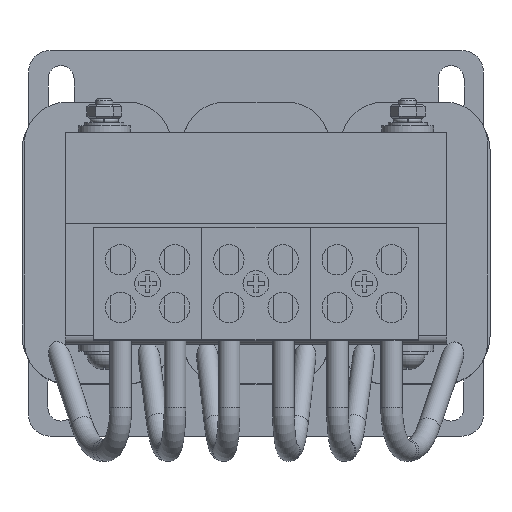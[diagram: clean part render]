
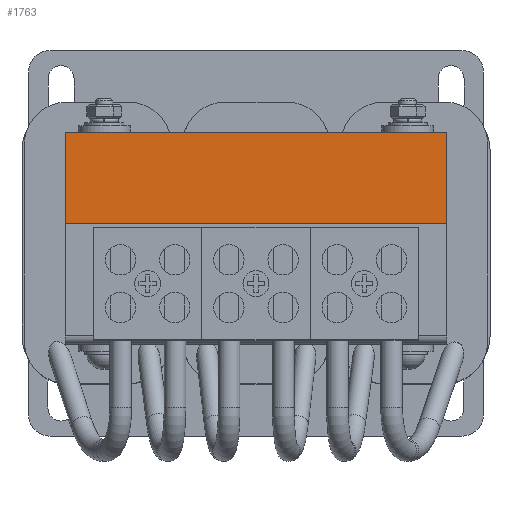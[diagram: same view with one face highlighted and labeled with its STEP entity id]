
A CAD part, top view. The second image highlights one B-rep face of the part: STEP entity #1763.
In plain terms, the highlighted planar face has unit normal (0, 0, 1).
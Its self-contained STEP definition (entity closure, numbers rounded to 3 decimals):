
#1763=ADVANCED_FACE('',(#2367),#2369,.T.);
#2367=FACE_BOUND('',#2368,.T.);
#2368=EDGE_LOOP('',(#3927,#3928,#3929,#3930));
#2369=PLANE('',#2370);
#2370=AXIS2_PLACEMENT_3D('',#2371,#2372,#2373);
#2371=CARTESIAN_POINT('',(0.,0.,21.));
#2372=DIRECTION('',(0.,0.,1.));
#2373=DIRECTION('',(-1.,0.,0.));
#3927=ORIENTED_EDGE('',*,*,#4712,.F.);
#3928=ORIENTED_EDGE('',*,*,#4703,.T.);
#3929=ORIENTED_EDGE('',*,*,#4720,.T.);
#3930=ORIENTED_EDGE('',*,*,#4695,.T.);
#4695=EDGE_CURVE('',#5251,#5249,#5252,.T.);
#4703=EDGE_CURVE('',#5267,#5265,#5268,.T.);
#4712=EDGE_CURVE('',#5267,#5249,#5281,.T.);
#4720=EDGE_CURVE('',#5265,#5251,#5291,.T.);
#5249=VERTEX_POINT('',#6341);
#5251=VERTEX_POINT('',#6345);
#5252=LINE('',#6346,#6347);
#5265=VERTEX_POINT('',#6374);
#5267=VERTEX_POINT('',#6378);
#5268=LINE('',#6379,#6380);
#5281=LINE('',#6411,#6412);
#5291=LINE('',#6439,#6440);
#6341=CARTESIAN_POINT('',(-44.,-22.4,21.));
#6345=CARTESIAN_POINT('',(-44.,24.5,21.));
#6346=CARTESIAN_POINT('',(-44.,24.5,21.));
#6347=VECTOR('',#6348,1.);
#6348=DIRECTION('',(0.,-1.,0.));
#6374=CARTESIAN_POINT('',(44.,24.5,21.));
#6378=CARTESIAN_POINT('',(44.,-22.4,21.));
#6379=CARTESIAN_POINT('',(44.,-22.4,21.));
#6380=VECTOR('',#6381,1.);
#6381=DIRECTION('',(0.,1.,0.));
#6411=CARTESIAN_POINT('',(44.,-22.4,21.));
#6412=VECTOR('',#6413,1.);
#6413=DIRECTION('',(-1.,0.,0.));
#6439=CARTESIAN_POINT('',(44.,24.5,21.));
#6440=VECTOR('',#6441,1.);
#6441=DIRECTION('',(-1.,0.,0.));
